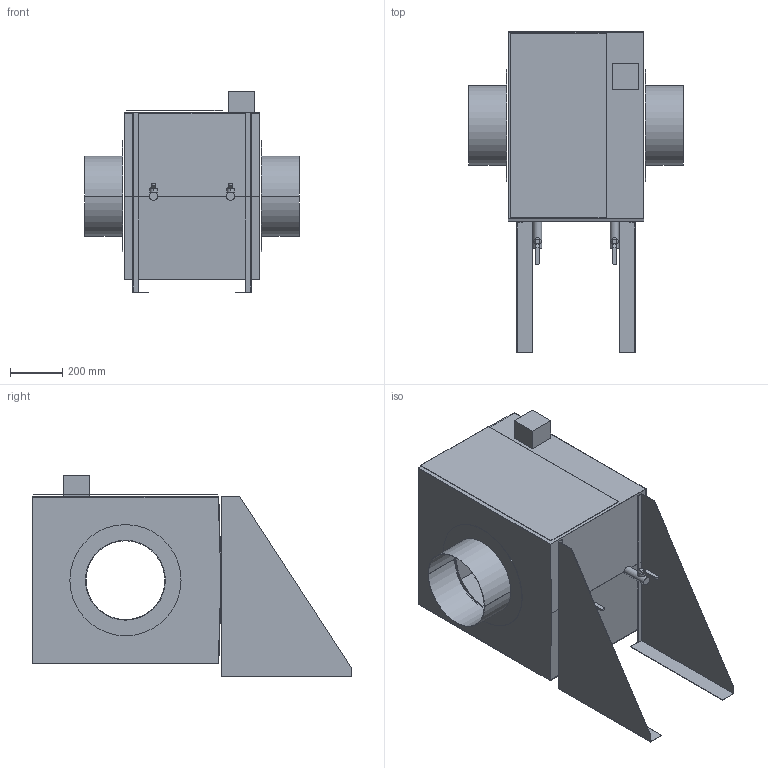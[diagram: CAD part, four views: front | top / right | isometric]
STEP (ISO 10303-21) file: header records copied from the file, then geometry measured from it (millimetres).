
FILE_DESCRIPTION((''),'2;1');
FILE_NAME('51541358','2020-10-08T08:49:29',('slc'),('HUBER SE'),'CREO PARAMETRIC BY PTC INC, 2019224','CREO PARAMETRIC BY PTC INC, 2019224','');
FILE_SCHEMA(('AUTOMOTIVE_DESIGN { 1 0 10303 214 1 1 1 1 }'));
Length unit declared in the file: millimetre
Products named in the file (1): 51541358
Bounding box: 820 x 1225 x 772 mm (x, y, z)
Volume: 7685306 mm3; surface area: 6752994.6 mm2
Topology: 12 solids, 12 shells, 105 faces, 224 edges, 148 vertices
Faces by surface type: plane 75, cylinder 26, cone 4
Entity records: 3327 total; most frequent: DIRECTION 490, CARTESIAN_POINT 479, ORIENTED_EDGE 448, EDGE_CURVE 224, VECTOR 168, LINE 168, AXIS2_PLACEMENT_3D 161, VERTEX_POINT 148
